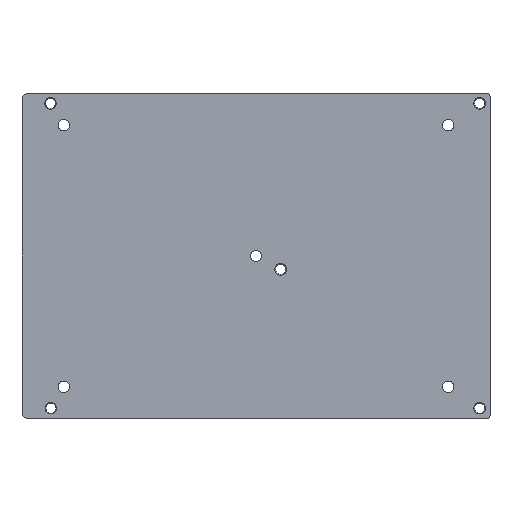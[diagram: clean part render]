
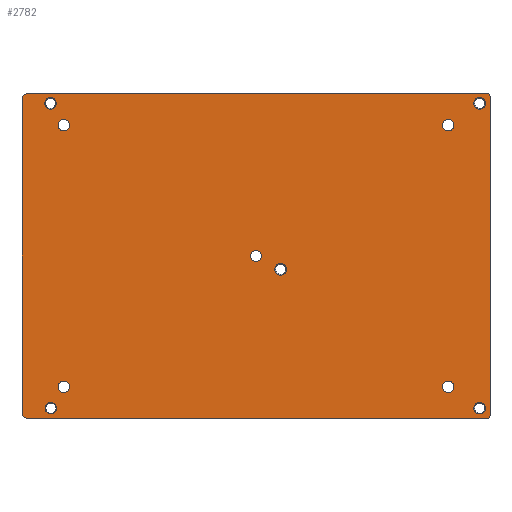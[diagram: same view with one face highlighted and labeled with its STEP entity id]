
A CAD part, front view. The second image highlights one B-rep face of the part: STEP entity #2782.
In plain terms, the highlighted planar face has unit normal (0, -1, 0).
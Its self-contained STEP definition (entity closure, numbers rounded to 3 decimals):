
#15=CARTESIAN_POINT('',(-71.025,0.,-48.8));
#16=DIRECTION('',(0.,-1.,0.));
#17=DIRECTION('',(-1.,0.,0.));
#18=AXIS2_PLACEMENT_3D('',#15,#16,#17);
#24=DIRECTION('',(0.,0.,1.));
#25=VECTOR('',#24,97.6);
#26=CARTESIAN_POINT('',(-73.025,0.,-48.8));
#27=LINE('',#26,#25);
#31=CARTESIAN_POINT('',(-71.025,0.,48.8));
#32=DIRECTION('',(0.,-1.,0.));
#33=DIRECTION('',(0.,0.,1.));
#34=AXIS2_PLACEMENT_3D('',#31,#32,#33);
#39=DIRECTION('',(1.,0.,0.));
#40=VECTOR('',#39,143.05);
#41=CARTESIAN_POINT('',(-71.025,0.,50.8));
#42=LINE('',#41,#40);
#46=CARTESIAN_POINT('',(72.025,0.,49.8));
#47=DIRECTION('',(0.,-1.,0.));
#48=DIRECTION('',(1.,0.,0.));
#49=AXIS2_PLACEMENT_3D('',#46,#47,#48);
#54=DIRECTION('',(0.,0.,-1.));
#55=VECTOR('',#54,99.6);
#56=CARTESIAN_POINT('',(73.025,0.,49.8));
#57=LINE('',#56,#55);
#61=CARTESIAN_POINT('',(72.025,0.,-49.8));
#62=DIRECTION('',(0.,-1.,0.));
#63=DIRECTION('',(0.,0.,-1.));
#64=AXIS2_PLACEMENT_3D('',#61,#62,#63);
#69=DIRECTION('',(-1.,0.,0.));
#70=VECTOR('',#69,143.05);
#71=CARTESIAN_POINT('',(72.025,0.,-50.8));
#72=LINE('',#71,#70);
#76=CARTESIAN_POINT('',(69.799,0.,47.625));
#77=DIRECTION('',(0.,1.,0.));
#78=DIRECTION('',(0.,0.,-1.));
#79=AXIS2_PLACEMENT_3D('',#76,#77,#78);
#84=CARTESIAN_POINT('',(69.799,0.,47.625));
#85=DIRECTION('',(0.,1.,0.));
#86=DIRECTION('',(0.,0.,1.));
#87=AXIS2_PLACEMENT_3D('',#84,#85,#86);
#92=CARTESIAN_POINT('',(69.795,0.,-47.5));
#93=DIRECTION('',(0.,1.,0.));
#94=DIRECTION('',(0.,0.,-1.));
#95=AXIS2_PLACEMENT_3D('',#92,#93,#94);
#100=CARTESIAN_POINT('',(69.795,0.,-47.5));
#101=DIRECTION('',(0.,1.,0.));
#102=DIRECTION('',(0.,0.,1.));
#103=AXIS2_PLACEMENT_3D('',#100,#101,#102);
#108=CARTESIAN_POINT('',(-64.005,0.,-47.5));
#109=DIRECTION('',(0.,1.,0.));
#110=DIRECTION('',(0.,0.,-1.));
#111=AXIS2_PLACEMENT_3D('',#108,#109,#110);
#116=CARTESIAN_POINT('',(-64.005,0.,-47.5));
#117=DIRECTION('',(0.,1.,0.));
#118=DIRECTION('',(0.,0.,1.));
#119=AXIS2_PLACEMENT_3D('',#116,#117,#118);
#124=CARTESIAN_POINT('',(-64.135,0.,47.63));
#125=DIRECTION('',(0.,1.,0.));
#126=DIRECTION('',(0.,0.,-1.));
#127=AXIS2_PLACEMENT_3D('',#124,#125,#126);
#132=CARTESIAN_POINT('',(-64.135,0.,47.63));
#133=DIRECTION('',(0.,1.,0.));
#134=DIRECTION('',(0.,0.,1.));
#135=AXIS2_PLACEMENT_3D('',#132,#133,#134);
#140=CARTESIAN_POINT('',(7.689,0.,-4.166));
#141=DIRECTION('',(0.,1.,0.));
#142=DIRECTION('',(0.,0.,1.));
#143=AXIS2_PLACEMENT_3D('',#140,#141,#142);
#148=CARTESIAN_POINT('',(7.689,0.,-4.166));
#149=DIRECTION('',(0.,1.,0.));
#150=DIRECTION('',(0.,0.,-1.));
#151=AXIS2_PLACEMENT_3D('',#148,#149,#150);
#156=CARTESIAN_POINT('',(60.,0.,40.8));
#157=DIRECTION('',(0.,1.,0.));
#158=DIRECTION('',(-1.,0.,0.));
#159=AXIS2_PLACEMENT_3D('',#156,#157,#158);
#164=CARTESIAN_POINT('',(60.,0.,40.8));
#165=DIRECTION('',(0.,1.,0.));
#166=DIRECTION('',(1.,0.,0.));
#167=AXIS2_PLACEMENT_3D('',#164,#165,#166);
#172=CARTESIAN_POINT('',(-60.,0.,40.8));
#173=DIRECTION('',(0.,1.,0.));
#174=DIRECTION('',(-1.,0.,0.));
#175=AXIS2_PLACEMENT_3D('',#172,#173,#174);
#180=CARTESIAN_POINT('',(-60.,0.,40.8));
#181=DIRECTION('',(0.,1.,0.));
#182=DIRECTION('',(1.,0.,0.));
#183=AXIS2_PLACEMENT_3D('',#180,#181,#182);
#188=CARTESIAN_POINT('',(-60.,0.,-40.8));
#189=DIRECTION('',(0.,1.,0.));
#190=DIRECTION('',(-1.,0.,0.));
#191=AXIS2_PLACEMENT_3D('',#188,#189,#190);
#196=CARTESIAN_POINT('',(-60.,0.,-40.8));
#197=DIRECTION('',(0.,1.,0.));
#198=DIRECTION('',(1.,0.,0.));
#199=AXIS2_PLACEMENT_3D('',#196,#197,#198);
#204=CARTESIAN_POINT('',(60.,0.,-40.8));
#205=DIRECTION('',(0.,1.,0.));
#206=DIRECTION('',(-1.,0.,0.));
#207=AXIS2_PLACEMENT_3D('',#204,#205,#206);
#212=CARTESIAN_POINT('',(60.,0.,-40.8));
#213=DIRECTION('',(0.,1.,0.));
#214=DIRECTION('',(1.,0.,0.));
#215=AXIS2_PLACEMENT_3D('',#212,#213,#214);
#220=CARTESIAN_POINT('',(0.,0.,0.));
#221=DIRECTION('',(0.,1.,0.));
#222=DIRECTION('',(-1.,0.,0.));
#223=AXIS2_PLACEMENT_3D('',#220,#221,#222);
#228=CARTESIAN_POINT('',(0.,0.,0.));
#229=DIRECTION('',(0.,1.,0.));
#230=DIRECTION('',(1.,0.,0.));
#231=AXIS2_PLACEMENT_3D('',#228,#229,#230);
#2315=CARTESIAN_POINT('',(-73.025,0.,-48.8));
#2316=CARTESIAN_POINT('',(-71.025,0.,-50.8));
#2317=VERTEX_POINT('',#2315);
#2318=VERTEX_POINT('',#2316);
#2319=CARTESIAN_POINT('',(-71.025,0.,50.8));
#2320=CARTESIAN_POINT('',(-73.025,0.,48.8));
#2321=VERTEX_POINT('',#2319);
#2322=VERTEX_POINT('',#2320);
#2323=CARTESIAN_POINT('',(73.025,0.,49.8));
#2324=CARTESIAN_POINT('',(72.025,0.,50.8));
#2325=VERTEX_POINT('',#2323);
#2326=VERTEX_POINT('',#2324);
#2327=CARTESIAN_POINT('',(72.025,0.,-50.8));
#2328=CARTESIAN_POINT('',(73.025,0.,-49.8));
#2329=VERTEX_POINT('',#2327);
#2330=VERTEX_POINT('',#2328);
#2331=CARTESIAN_POINT('',(69.799,0.,45.825));
#2332=CARTESIAN_POINT('',(69.799,0.,49.425));
#2333=VERTEX_POINT('',#2331);
#2334=VERTEX_POINT('',#2332);
#2339=CARTESIAN_POINT('',(69.795,0.,-49.3));
#2340=CARTESIAN_POINT('',(69.795,0.,-45.7));
#2341=VERTEX_POINT('',#2339);
#2342=VERTEX_POINT('',#2340);
#2347=CARTESIAN_POINT('',(-64.005,0.,-49.3));
#2348=CARTESIAN_POINT('',(-64.005,0.,-45.7));
#2349=VERTEX_POINT('',#2347);
#2350=VERTEX_POINT('',#2348);
#2355=CARTESIAN_POINT('',(-64.135,0.,45.83));
#2356=CARTESIAN_POINT('',(-64.135,0.,49.43));
#2357=VERTEX_POINT('',#2355);
#2358=VERTEX_POINT('',#2356);
#2427=CARTESIAN_POINT('',(7.689,0.,-2.366));
#2428=CARTESIAN_POINT('',(7.689,0.,-5.966));
#2429=VERTEX_POINT('',#2427);
#2430=VERTEX_POINT('',#2428);
#2451=CARTESIAN_POINT('',(58.25,0.,40.8));
#2452=CARTESIAN_POINT('',(61.75,0.,40.8));
#2453=VERTEX_POINT('',#2451);
#2454=VERTEX_POINT('',#2452);
#2455=CARTESIAN_POINT('',(-61.75,0.,40.8));
#2456=CARTESIAN_POINT('',(-58.25,0.,40.8));
#2457=VERTEX_POINT('',#2455);
#2458=VERTEX_POINT('',#2456);
#2459=CARTESIAN_POINT('',(-61.75,0.,-40.8));
#2460=CARTESIAN_POINT('',(-58.25,0.,-40.8));
#2461=VERTEX_POINT('',#2459);
#2462=VERTEX_POINT('',#2460);
#2463=CARTESIAN_POINT('',(58.25,0.,-40.8));
#2464=CARTESIAN_POINT('',(61.75,0.,-40.8));
#2465=VERTEX_POINT('',#2463);
#2466=VERTEX_POINT('',#2464);
#2483=CARTESIAN_POINT('',(-1.75,0.,0.));
#2484=CARTESIAN_POINT('',(1.75,0.,0.));
#2485=VERTEX_POINT('',#2483);
#2486=VERTEX_POINT('',#2484);
#2699=CARTESIAN_POINT('',(0.,0.,0.));
#2700=DIRECTION('',(0.,1.,0.));
#2701=DIRECTION('',(1.,0.,0.));
#2702=AXIS2_PLACEMENT_3D('',#2699,#2700,#2701);
#2703=PLANE('',#2702);
#2705=ORIENTED_EDGE('',*,*,#2704,.F.);
#2707=ORIENTED_EDGE('',*,*,#2706,.T.);
#2709=ORIENTED_EDGE('',*,*,#2708,.F.);
#2711=ORIENTED_EDGE('',*,*,#2710,.T.);
#2713=ORIENTED_EDGE('',*,*,#2712,.F.);
#2715=ORIENTED_EDGE('',*,*,#2714,.T.);
#2717=ORIENTED_EDGE('',*,*,#2716,.F.);
#2719=ORIENTED_EDGE('',*,*,#2718,.T.);
#2720=EDGE_LOOP('',(#2705,#2707,#2709,#2711,#2713,#2715,#2717,#2719));
#2721=FACE_OUTER_BOUND('',#2720,.F.);
#2723=ORIENTED_EDGE('',*,*,#2722,.F.);
#2725=ORIENTED_EDGE('',*,*,#2724,.F.);
#2726=EDGE_LOOP('',(#2723,#2725));
#2727=FACE_BOUND('',#2726,.F.);
#2729=ORIENTED_EDGE('',*,*,#2728,.F.);
#2731=ORIENTED_EDGE('',*,*,#2730,.F.);
#2732=EDGE_LOOP('',(#2729,#2731));
#2733=FACE_BOUND('',#2732,.F.);
#2735=ORIENTED_EDGE('',*,*,#2734,.F.);
#2737=ORIENTED_EDGE('',*,*,#2736,.F.);
#2738=EDGE_LOOP('',(#2735,#2737));
#2739=FACE_BOUND('',#2738,.F.);
#2741=ORIENTED_EDGE('',*,*,#2740,.F.);
#2743=ORIENTED_EDGE('',*,*,#2742,.F.);
#2744=EDGE_LOOP('',(#2741,#2743));
#2745=FACE_BOUND('',#2744,.F.);
#2747=ORIENTED_EDGE('',*,*,#2746,.F.);
#2749=ORIENTED_EDGE('',*,*,#2748,.F.);
#2750=EDGE_LOOP('',(#2747,#2749));
#2751=FACE_BOUND('',#2750,.F.);
#2753=ORIENTED_EDGE('',*,*,#2752,.F.);
#2755=ORIENTED_EDGE('',*,*,#2754,.F.);
#2756=EDGE_LOOP('',(#2753,#2755));
#2757=FACE_BOUND('',#2756,.F.);
#2759=ORIENTED_EDGE('',*,*,#2758,.F.);
#2761=ORIENTED_EDGE('',*,*,#2760,.F.);
#2762=EDGE_LOOP('',(#2759,#2761));
#2763=FACE_BOUND('',#2762,.F.);
#2765=ORIENTED_EDGE('',*,*,#2764,.F.);
#2767=ORIENTED_EDGE('',*,*,#2766,.F.);
#2768=EDGE_LOOP('',(#2765,#2767));
#2769=FACE_BOUND('',#2768,.F.);
#2771=ORIENTED_EDGE('',*,*,#2770,.F.);
#2773=ORIENTED_EDGE('',*,*,#2772,.F.);
#2774=EDGE_LOOP('',(#2771,#2773));
#2775=FACE_BOUND('',#2774,.F.);
#2777=ORIENTED_EDGE('',*,*,#2776,.F.);
#2779=ORIENTED_EDGE('',*,*,#2778,.F.);
#2780=EDGE_LOOP('',(#2777,#2779));
#2781=FACE_BOUND('',#2780,.F.);
#2782=ADVANCED_FACE('',(#2721,#2727,#2733,#2739,#2745,#2751,#2757,#2763,#2769,
#2775,#2781),#2703,.F.);
#19=CIRCLE('',#18,2.);
#35=CIRCLE('',#34,2.);
#50=CIRCLE('',#49,1.);
#65=CIRCLE('',#64,1.);
#80=CIRCLE('',#79,1.8);
#88=CIRCLE('',#87,1.8);
#96=CIRCLE('',#95,1.8);
#104=CIRCLE('',#103,1.8);
#112=CIRCLE('',#111,1.8);
#120=CIRCLE('',#119,1.8);
#128=CIRCLE('',#127,1.8);
#136=CIRCLE('',#135,1.8);
#144=CIRCLE('',#143,1.8);
#152=CIRCLE('',#151,1.8);
#160=CIRCLE('',#159,1.75);
#168=CIRCLE('',#167,1.75);
#176=CIRCLE('',#175,1.75);
#184=CIRCLE('',#183,1.75);
#192=CIRCLE('',#191,1.75);
#200=CIRCLE('',#199,1.75);
#208=CIRCLE('',#207,1.75);
#216=CIRCLE('',#215,1.75);
#224=CIRCLE('',#223,1.75);
#232=CIRCLE('',#231,1.75);
#2704=EDGE_CURVE('',#2317,#2318,#19,.T.);
#2706=EDGE_CURVE('',#2317,#2322,#27,.T.);
#2708=EDGE_CURVE('',#2321,#2322,#35,.T.);
#2710=EDGE_CURVE('',#2321,#2326,#42,.T.);
#2712=EDGE_CURVE('',#2325,#2326,#50,.T.);
#2714=EDGE_CURVE('',#2325,#2330,#57,.T.);
#2716=EDGE_CURVE('',#2329,#2330,#65,.T.);
#2718=EDGE_CURVE('',#2329,#2318,#72,.T.);
#2722=EDGE_CURVE('',#2333,#2334,#80,.T.);
#2724=EDGE_CURVE('',#2334,#2333,#88,.T.);
#2728=EDGE_CURVE('',#2341,#2342,#96,.T.);
#2730=EDGE_CURVE('',#2342,#2341,#104,.T.);
#2734=EDGE_CURVE('',#2349,#2350,#112,.T.);
#2736=EDGE_CURVE('',#2350,#2349,#120,.T.);
#2740=EDGE_CURVE('',#2357,#2358,#128,.T.);
#2742=EDGE_CURVE('',#2358,#2357,#136,.T.);
#2746=EDGE_CURVE('',#2429,#2430,#144,.T.);
#2748=EDGE_CURVE('',#2430,#2429,#152,.T.);
#2752=EDGE_CURVE('',#2453,#2454,#160,.T.);
#2754=EDGE_CURVE('',#2454,#2453,#168,.T.);
#2758=EDGE_CURVE('',#2457,#2458,#176,.T.);
#2760=EDGE_CURVE('',#2458,#2457,#184,.T.);
#2764=EDGE_CURVE('',#2461,#2462,#192,.T.);
#2766=EDGE_CURVE('',#2462,#2461,#200,.T.);
#2770=EDGE_CURVE('',#2465,#2466,#208,.T.);
#2772=EDGE_CURVE('',#2466,#2465,#216,.T.);
#2776=EDGE_CURVE('',#2485,#2486,#224,.T.);
#2778=EDGE_CURVE('',#2486,#2485,#232,.T.);
